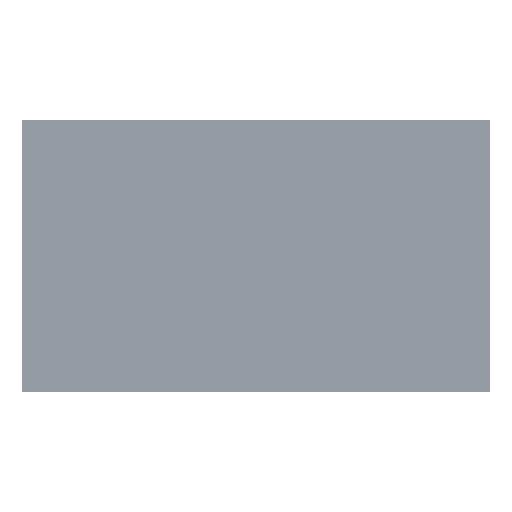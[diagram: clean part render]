
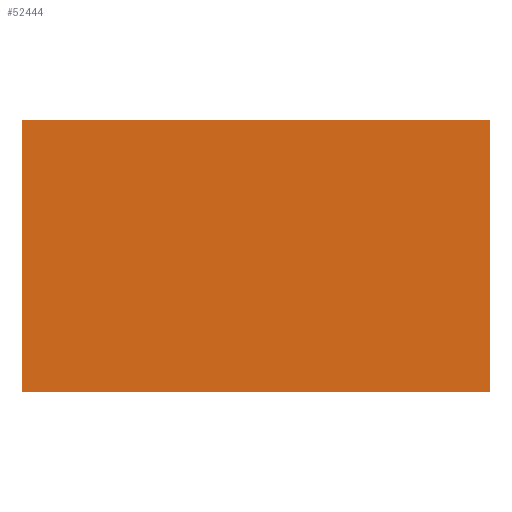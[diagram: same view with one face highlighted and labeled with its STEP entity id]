
A CAD part, top view. The second image highlights one B-rep face of the part: STEP entity #52444.
In plain terms, the highlighted planar face has unit normal (0, 0, 1).
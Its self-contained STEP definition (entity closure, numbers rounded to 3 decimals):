
#18318=DIRECTION('',(0.,1.,0.));
#18319=VECTOR('',#18318,1485.907);
#18320=CARTESIAN_POINT('',(-1342.668,-750.454,
2566.478));
#18321=LINE('',#18320,#18319);
#18322=DIRECTION('',(1.,0.,0.));
#18323=VECTOR('',#18322,2558.96);
#18324=CARTESIAN_POINT('',(-1342.668,735.454,
2566.478));
#18325=LINE('',#18324,#18323);
#18326=DIRECTION('',(0.,1.,0.));
#18327=VECTOR('',#18326,1485.907);
#18328=CARTESIAN_POINT('',(1216.292,-750.454,
2566.478));
#18329=LINE('',#18328,#18327);
#18330=DIRECTION('',(1.,0.,0.));
#18331=VECTOR('',#18330,2558.96);
#18332=CARTESIAN_POINT('',(-1342.668,-750.454,
2566.478));
#18333=LINE('',#18332,#18331);
#22256=CARTESIAN_POINT('',(-1342.668,-750.454,
2566.478));
#22257=CARTESIAN_POINT('',(-1342.668,735.454,
2566.478));
#22258=VERTEX_POINT('',#22256);
#22259=VERTEX_POINT('',#22257);
#22260=CARTESIAN_POINT('',(1216.292,-750.454,
2566.478));
#22261=CARTESIAN_POINT('',(1216.292,735.454,2566.478));
#22262=VERTEX_POINT('',#22260);
#22263=VERTEX_POINT('',#22261);
#52429=CARTESIAN_POINT('',(-1500.,-909.7,2566.478));
#52430=DIRECTION('',(0.,0.,1.));
#52431=DIRECTION('',(1.,0.,0.));
#52432=AXIS2_PLACEMENT_3D('',#52429,#52430,#52431);
#52433=PLANE('',#52432);
#52435=ORIENTED_EDGE('',*,*,#52434,.T.);
#52437=ORIENTED_EDGE('',*,*,#52436,.T.);
#52439=ORIENTED_EDGE('',*,*,#52438,.F.);
#52441=ORIENTED_EDGE('',*,*,#52440,.F.);
#52442=EDGE_LOOP('',(#52435,#52437,#52439,#52441));
#52443=FACE_OUTER_BOUND('',#52442,.F.);
#52434=EDGE_CURVE('',#22258,#22259,#18321,.T.);
#52436=EDGE_CURVE('',#22259,#22263,#18325,.T.);
#52438=EDGE_CURVE('',#22262,#22263,#18329,.T.);
#52440=EDGE_CURVE('',#22258,#22262,#18333,.T.);
#52444=ADVANCED_FACE('',(#52443),#52433,.T.);
